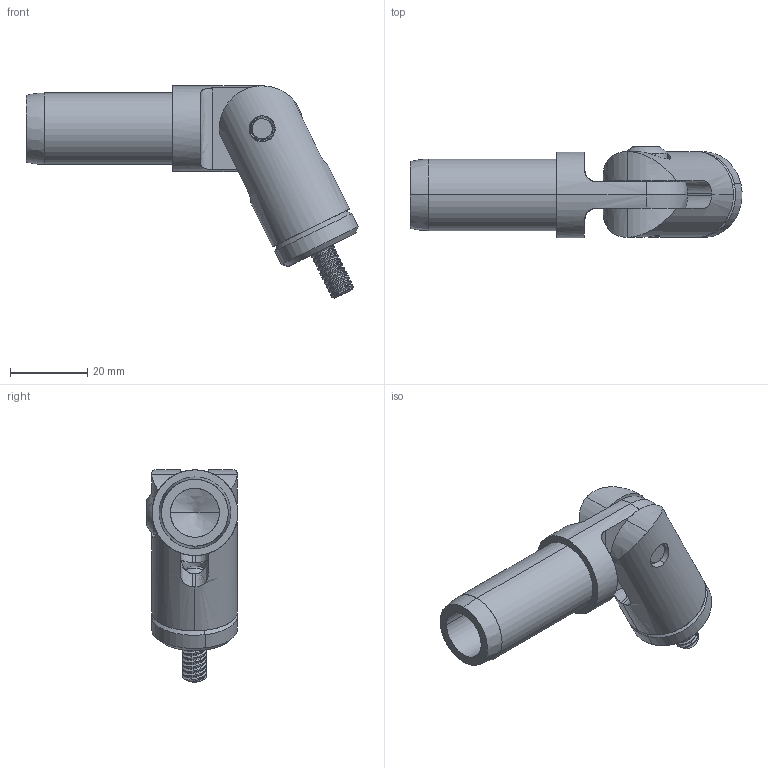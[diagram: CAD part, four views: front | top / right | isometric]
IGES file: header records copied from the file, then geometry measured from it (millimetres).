
Start section: SolidWorks IGES file using analytic representation for surfaces
Global section: file name: \\SERVER3\Design\_New Design Drive Folder List\_Design Vault\AAI\Modular Round Tube Connectors\Solidworks Models\STP Files\12202013\0.750 Inch Modular Connectors\Assemblies\Adjustable Camera Mount for 0.75 Inch Tube.IGS; native system: SolidWorks 2013; preprocessor: SolidWorks 2013; author: tbraun; date: 140109.103747; units: inch
Bounding box: 86.14 x 23.74 x 55.06 mm (x, y, z)
Surface area: 14414.4 mm2 (no closed solid volume)
Topology: 0 solids, 0 shells, 456 faces, 6021 edges, 6014 vertices
Faces by surface type: revolution 389, bspline 67
